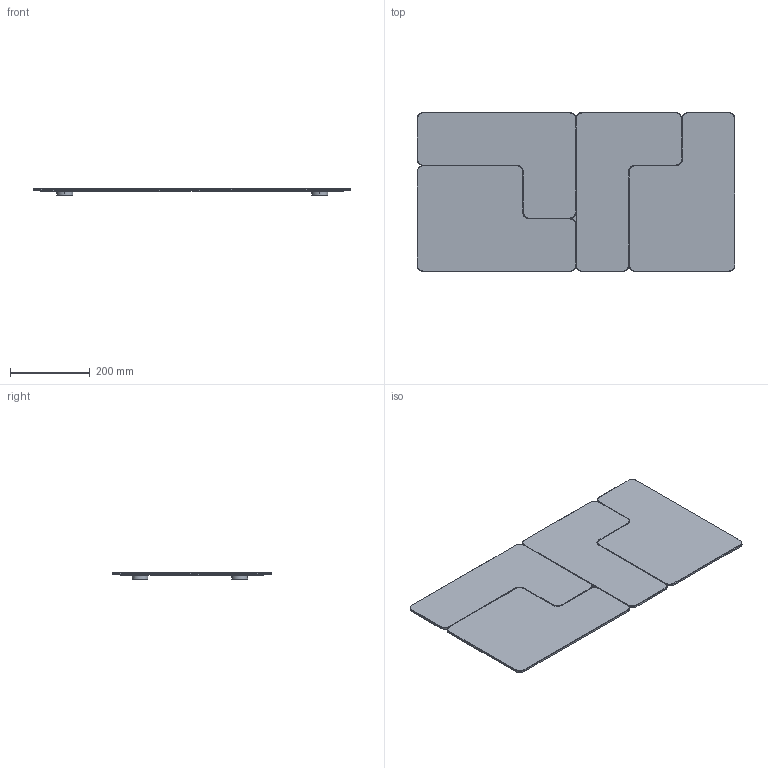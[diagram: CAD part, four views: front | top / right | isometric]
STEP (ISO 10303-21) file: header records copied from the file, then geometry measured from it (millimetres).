
FILE_DESCRIPTION(/* description */ (''),/* implementation_level */ '2;1');
FILE_NAME(/* name */ 'T79 - Tetris mod.B',/* time_stamp */ '2010-12-09T16:15:42+01:00',/* author */ (''),/* organization */ (''),/* preprocessor_version */ 'ST-DEVELOPER v10',/* originating_system */ '',/* authorisation */ '');
FILE_SCHEMA (('CONFIG_CONTROL_DESIGN'));
Length unit declared in the file: centimetre
Products named in the file (1): 1
Bounding box: 798 x 399 x 16.5 mm (x, y, z)
Volume: 2039119.3 mm3; surface area: 1215712.8 mm2
Topology: 9 solids, 9 shells, 46 faces, 76 edges, 48 vertices
Faces by surface type: bspline 24, plane 22
Entity records: 1968 total; most frequent: CARTESIAN_POINT 1320, ORIENTED_EDGE 152, EDGE_CURVE 76, B_SPLINE_CURVE_WITH_KNOTS 52, VERTEX_POINT 48, ADVANCED_FACE 46, FACE_OUTER_BOUND 46, EDGE_LOOP 46
